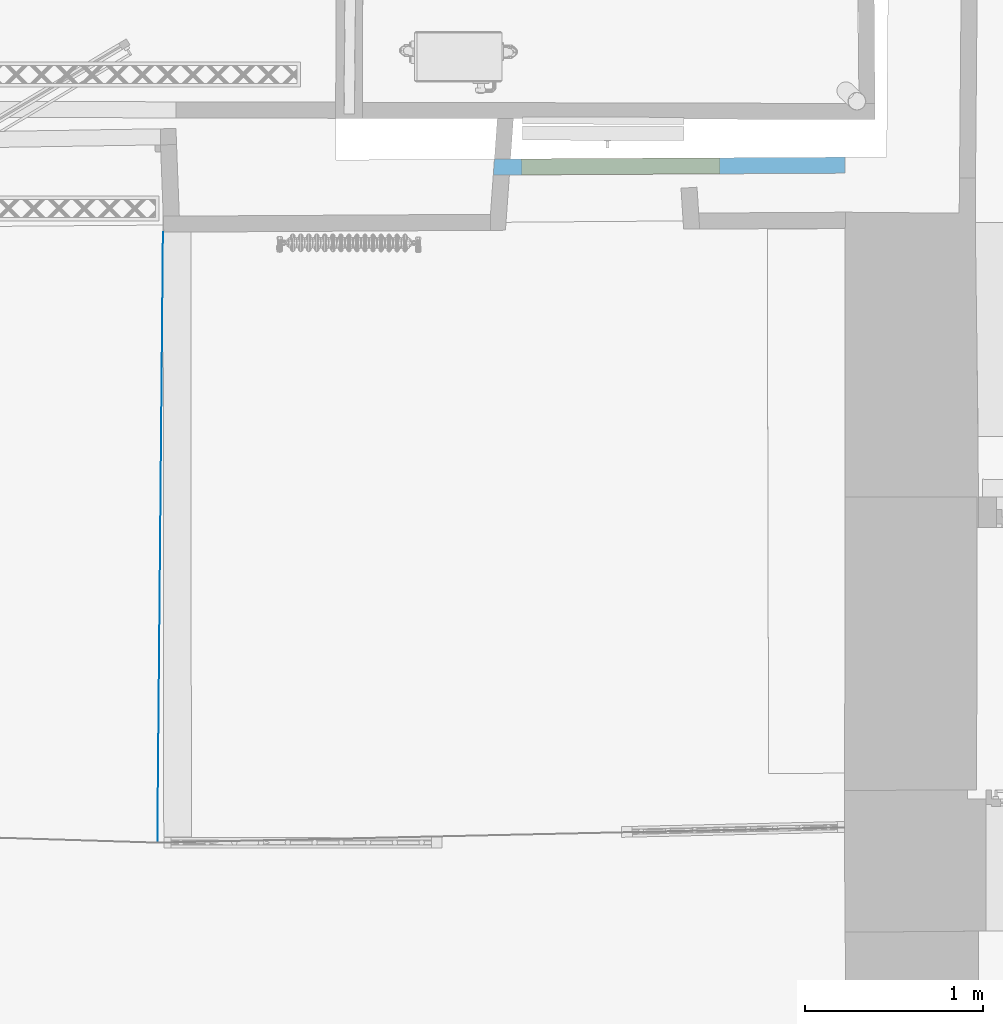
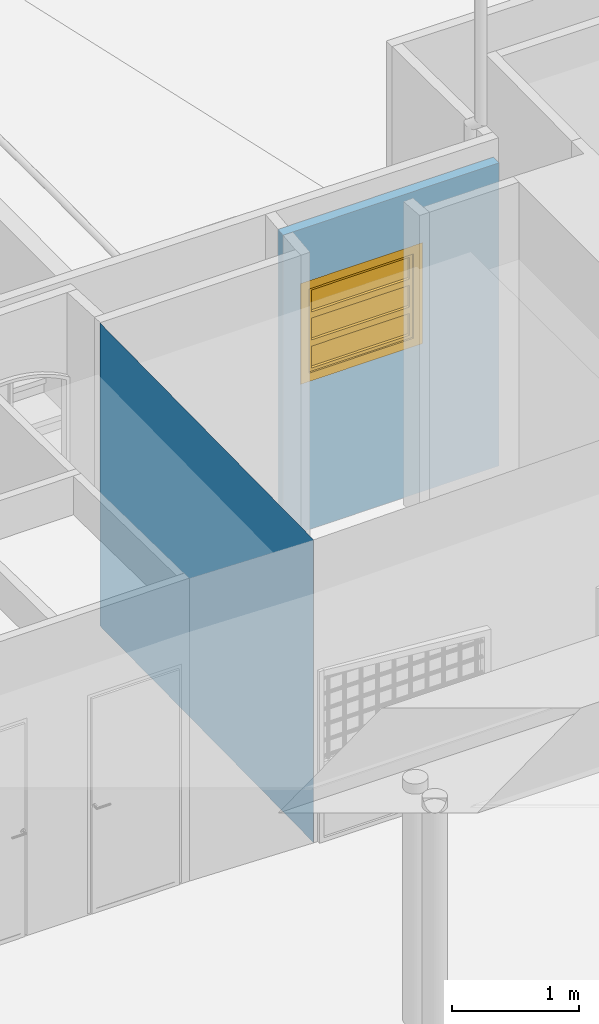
# One storey, part 107 of 133: 1 wall, 1 window, 1 opening, plus 1 element that does not belong to this part.
"""IFC2X3 building model written with IfcOpenShell, lengths in centimetres."""

from ifc_helpers import new_model, entity, si_unit, converted_unit, direction, frame, origin, origin_with_axes, place, context, subcontext, project, spatial, polyline, outline, extrude, faceted_brep, shape, source, transform, mapped, material, material_list, layer, layer_set, layer_usage, type_object, element, fill, save


model = new_model("IFC2X3")

# Units and contexts
model_context = context("Model", 3, precision=0.0001, world=origin(), true_north=direction((0.225632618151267, 0.974212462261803, 0.0)))
body_context = subcontext(model_context, "Body", "Model", "MODEL_VIEW")
footprint_context = subcontext(model_context, "FootPrint", "Model", "MODEL_VIEW")
profile_context = subcontext(model_context, "Profile", "Model", "MODEL_VIEW")
ifc_project = project(units=[si_unit("LENGTHUNIT", "METRE", prefix="CENTI"), si_unit("AREAUNIT", "SQUARE_METRE", prefix="CENTI"), si_unit("VOLUMEUNIT", "CUBIC_METRE", prefix="CENTI"), converted_unit("PLANEANGLEUNIT", "DEGREE", entity("IfcRatioMeasure", 0.0174532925), si_unit("PLANEANGLEUNIT", "RADIAN"), dimensions=[0, 0, 0, 0, 0, 0, 0])], contexts=[model_context])

# Site, building, storey
site_placement = place(None, origin_with_axes())
site = spatial("IfcSite", under=ifc_project, at=site_placement, Name="Default Site", CompositionType="ELEMENT")
building_placement = place(site_placement, origin_with_axes())
building = spatial("IfcBuilding", under=site, at=building_placement, Name="Default Building", CompositionType="ELEMENT")
storey_placement = place(building_placement, frame((0.0, 0.0, -291.400371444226), z_axis=(0.0, 0.0, 1.0), x_axis=(1.0, 0.0, 0.0)))
storey = spatial("IfcBuildingStorey", under=building, at=storey_placement, Name="Rez-de-Jardin", CompositionType="ELEMENT", Elevation=-291.400371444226)

# Wall
ifc_material_1 = material(Name="<aucun>")
ifc_layer_1 = layer(ifc_material_1, 0.0101999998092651)
ifc_layer_set_1 = layer_set([ifc_layer_1], Name="default")
ifc_layer_usage_1 = layer_usage(ifc_layer_set_1, "AXIS2", "POSITIVE", -0.0051)
wall_type_1 = type_object("IfcWallType", Name="default 0.101999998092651", PredefinedType="NOTDEFINED", material=ifc_layer_set_1)
wall_1_placement = place(storey_placement, frame((-154.877763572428, 203.499577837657, 0.0), z_axis=(0.0, 0.0, 1.0), x_axis=(0.00918020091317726, 0.999957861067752, 0.0)))
element("IfcWall", 1, at=wall_1_placement, inside=storey, type_object=wall_type_1, material=ifc_layer_usage_1, Name="Enveloppe fantôme 77961", context=body_context, shape_type="Brep", body=[
    faceted_brep([(342.371992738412, 1.76864389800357e-06, 1.03831294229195e-05), (1.6428183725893e-06, 1.87771887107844e-06, 1.03831294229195e-05), (1.6428183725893e-06, 1.87771887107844e-06, 82.7960833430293), (342.301227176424, 1.76866644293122e-06, 82.7960833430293), (342.371992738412, 1.76864389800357e-06, 82.7960833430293), (1.64281837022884e-06, -5.53145678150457e-06, 1.03831294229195e-05), (342.371992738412, -5.64053175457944e-06, 1.03831294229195e-05), (342.371992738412, -5.64053175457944e-06, 82.7960833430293), (342.301227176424, -5.64050920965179e-06, 82.7960833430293), (1.64281837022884e-06, -5.53145678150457e-06, 82.7960833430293), (342.301227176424, -4.14351843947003e-06, 82.7960833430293), (1.64281837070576e-06, -4.03446601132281e-06, 82.7960833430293), (1.64281837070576e-06, -4.03446601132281e-06, 291.413221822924), (342.301227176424, -4.14351843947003e-06, 291.413221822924), (342.301227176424, -4.14351843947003e-06, 105.000005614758), (342.301227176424, -5.64050920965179e-06, 105.000005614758), (342.301227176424, -5.64050920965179e-06, 291.413221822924), (1.64281837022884e-06, -5.53145678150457e-06, 291.413221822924), (342.301227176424, 1.76866644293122e-06, 105.000005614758), (342.371992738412, 1.76864389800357e-06, 105.000005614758), (342.371992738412, -4.14354098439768e-06, 82.7960833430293), (342.371992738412, -4.14354098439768e-06, 105.000005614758)], [[[0, 1, 2, 3, 4]], [[5, 6, 7, 8, 9]], [[10, 11, 12, 13, 14]], [[9, 8, 15, 16, 17]], [[4, 3, 18, 19]], [[10, 20, 21, 14]]]),
])

# Wall, opening, window
ifc_layer_2 = layer(ifc_material_1, 9.0)
ifc_layer_set_2 = layer_set([ifc_layer_2], Name="default")
ifc_layer_usage_2 = layer_usage(ifc_layer_set_2, "AXIS2", "POSITIVE", -4.5)
wall_type_2 = type_object("IfcWallType", Name="default 90", PredefinedType="NOTDEFINED", material=ifc_layer_set_2)
wall_2_placement = place(storey_placement, frame((38.1848745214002, 582.330023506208, -1.94511073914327e-11), z_axis=(0.0, 0.0, 1.0), x_axis=(0.999985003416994, 0.00547658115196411, 0.0)))
wall_2 = element("IfcWallStandardCase", 2, at=wall_2_placement, inside=storey, type_object=wall_type_2, material=ifc_layer_usage_2, Name="Enveloppe 55077", context=body_context, shape_type="SweptSolid", body=[
    extrude(outline(polyline([(-4.85909695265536, -4.50000000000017), (192.283167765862, -4.50000000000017), (192.283167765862, 4.4999999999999), (-4.16744102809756, 4.50000000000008), (-4.85909695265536, -4.50000000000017)])), frame((0.0, 0.0, 1.33226762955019e-13), z_axis=(0.0, 0.0, 1.0), x_axis=(1.0, 0.0, 0.0)), (0.0, 0.0, 1.0), 291.413221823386),
])
opening_placement = place(wall_2_placement, frame((10.8625685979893, 1.13686837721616e-13, 142.337174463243), z_axis=(0.0, 0.0, 1.0), x_axis=(-1.0, 3.82506526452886e-16, 0.0)))
cartesian_point_1 = entity("IfcCartesianPoint", [1.11022302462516e-14, 0.0, 97.0])
cartesian_point_2 = entity("IfcCartesianPoint", [-111.462126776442, -4.49999999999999])
opening = element("IfcOpeningElement", 3, at=opening_placement, cuts=wall_2, Name="4294966477_11", ObjectType="Opening", shapes=[
    shape(body_context, "Body", "SweptSolid", [extrude(outline(polyline([(-1.11022302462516e-14, 97.0), (-1.11022302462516e-14, 2.22044604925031e-14), (111.462126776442, 2.22044604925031e-14), (111.462126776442, 97.0), (-1.11022302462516e-14, 97.0)])), frame((0.0, -14.5, 0.0), z_axis=(0.0, 1.0, 0.0), x_axis=(-1.0, 0.0, 0.0)), (0.0, 0.0, 1.0), 29.0)]),
    shape(profile_context, "Profile", "GeometricCurveSet", [entity("IfcGeometricCurveSet", [entity("IfcPolyline", [cartesian_point_1, entity("IfcCartesianPoint", [1.11022302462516e-14, 0.0, 2.22044604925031e-14]), entity("IfcCartesianPoint", [-111.462126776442, 8.88178419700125e-14, 2.22044604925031e-14]), entity("IfcCartesianPoint", [-111.462126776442, 8.88178419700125e-14, 97.0]), cartesian_point_1])])]),
    shape(footprint_context, "FootPrint", "GeometricCurveSet", [entity("IfcGeometricCurveSet", [entity("IfcPolyline", [cartesian_point_2, entity("IfcCartesianPoint", [1.11022302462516e-14, -4.49999999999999]), entity("IfcCartesianPoint", [0.0, 4.49999999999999]), entity("IfcCartesianPoint", [-111.462126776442, 4.50000000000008]), cartesian_point_2])])]),
])
ifc_material_2 = material(Name="Transparent")
ifc_material_3 = material(Name="Blanc trafic")
ifc_material_list = material_list([ifc_material_2, ifc_material_3])
window_style = type_object("IfcWindowStyle", Name="Fn 1 montant fixe 2 vitres ép 90", ConstructionType="NOTDEFINED", OperationType="TRIPLE_PANEL_HORIZONTAL", ParameterTakesPrecedence=True, Sizeable=False, material=ifc_material_list)
shared_shape = source(origin_with_axes(), body_context, "Body", "Brep", [
    faceted_brep([(-47.7310627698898, 88.9999985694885, -4.50000017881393), (-47.7310627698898, 88.9999985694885, 4.50000017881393), (-47.7310627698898, 7.99999982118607, 4.50000017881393), (-47.7310627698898, 7.99999982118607, -4.50000017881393), (-55.731064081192, 97.0000028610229, 4.50000017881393), (-55.731064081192, 0.0, 4.50000017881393), (-55.731064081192, 97.0000028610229, -4.50000017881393), (-55.731064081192, 0.0, -4.50000017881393), (47.7310627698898, 7.99999982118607, 4.50000017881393), (47.7310627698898, 7.99999982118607, -4.50000017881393), (55.731064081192, 0.0, 4.50000017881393), (55.731064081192, 0.0, -4.50000017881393), (47.7310627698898, 88.9999985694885, 4.50000017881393), (47.7310627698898, 88.9999985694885, -4.50000017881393), (55.731064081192, 97.0000028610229, 4.50000017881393), (55.731064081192, 97.0000028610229, -4.50000017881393)], [[[0, 1, 2, 3]], [[1, 4, 5, 2]], [[4, 6, 7, 5]], [[6, 0, 3, 7]], [[3, 2, 8, 9]], [[2, 5, 10, 8]], [[5, 7, 11, 10]], [[7, 3, 9, 11]], [[9, 8, 12, 13]], [[8, 10, 14, 12]], [[10, 11, 15, 14]], [[11, 9, 13, 15]], [[13, 12, 1, 0]], [[12, 14, 4, 1]], [[14, 15, 6, 4]], [[15, 13, 0, 6]]]),
    faceted_brep([(-44.7310626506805, 86.0000014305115, -2.99999993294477), (-44.7310626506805, 86.0000014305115, 2.99999993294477), (-44.7310626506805, 64.9999976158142, 2.99999993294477), (-44.7310626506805, 64.9999976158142, -2.99999993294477), (-47.7310627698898, 88.9999985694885, 2.99999993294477), (-47.7310627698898, 62.0000004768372, 2.99999993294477), (-47.7310627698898, 88.9999985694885, -2.99999993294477), (-47.7310627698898, 62.0000004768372, -2.99999993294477), (44.7310626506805, 64.9999976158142, 2.99999993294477), (44.7310626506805, 64.9999976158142, -2.99999993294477), (47.7310627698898, 62.0000004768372, 2.99999993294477), (47.7310627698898, 62.0000004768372, -2.99999993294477), (44.7310626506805, 86.0000014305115, 2.99999993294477), (44.7310626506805, 86.0000014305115, -2.99999993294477), (47.7310627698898, 88.9999985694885, 2.99999993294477), (47.7310627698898, 88.9999985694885, -2.99999993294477)], [[[0, 1, 2, 3]], [[1, 4, 5, 2]], [[4, 6, 7, 5]], [[6, 0, 3, 7]], [[3, 2, 8, 9]], [[2, 5, 10, 8]], [[5, 7, 11, 10]], [[7, 3, 9, 11]], [[9, 8, 12, 13]], [[8, 10, 14, 12]], [[10, 11, 15, 14]], [[11, 9, 13, 15]], [[13, 12, 1, 0]], [[12, 14, 4, 1]], [[14, 15, 6, 4]], [[15, 13, 0, 6]]]),
    faceted_brep([(44.7310626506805, 86.0000014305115, -0.499999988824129), (44.7310626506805, 64.9999976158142, -0.499999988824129), (-44.7310626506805, 64.9999976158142, -0.499999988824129), (-44.7310626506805, 86.0000014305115, -0.499999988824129), (-44.7310626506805, 86.0000014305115, 0.499999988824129), (-44.7310626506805, 64.9999976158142, 0.499999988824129), (44.7310626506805, 64.9999976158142, 0.499999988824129), (44.7310626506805, 86.0000014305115, 0.499999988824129)], [[[0, 1, 2, 3]], [[4, 5, 6, 7]], [[3, 2, 5, 4]], [[2, 1, 6, 5]], [[1, 0, 7, 6]], [[0, 3, 4, 7]]]),
    faceted_brep([(-44.7310626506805, 58.9999973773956, -2.99999993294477), (-44.7310626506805, 58.9999973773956, 2.99999993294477), (-44.7310626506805, 37.9999995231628, 2.99999993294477), (-44.7310626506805, 37.9999995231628, -2.99999993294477), (-47.7310627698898, 62.0000004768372, 2.99999993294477), (-47.7310627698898, 34.9999994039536, 2.99999993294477), (-47.7310627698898, 62.0000004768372, -2.99999993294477), (-47.7310627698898, 34.9999994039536, -2.99999993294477), (44.7310626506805, 37.9999995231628, 2.99999993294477), (44.7310626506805, 37.9999995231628, -2.99999993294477), (47.7310627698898, 34.9999994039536, 2.99999993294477), (47.7310627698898, 34.9999994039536, -2.99999993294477), (44.7310626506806, 58.9999973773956, 2.99999993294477), (44.7310626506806, 58.9999973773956, -2.99999993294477), (47.7310627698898, 62.0000004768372, 2.99999993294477), (44.7310626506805, 58.9999973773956, 2.99999993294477), (47.7310627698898, 62.0000004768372, -2.99999993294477), (44.7310626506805, 58.9999973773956, -2.99999993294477)], [[[0, 1, 2, 3]], [[1, 4, 5, 2]], [[4, 6, 7, 5]], [[6, 0, 3, 7]], [[3, 2, 8, 9]], [[2, 5, 10, 8]], [[5, 7, 11, 10]], [[7, 3, 9, 11]], [[9, 8, 12, 13]], [[8, 10, 14, 15]], [[10, 11, 16, 14]], [[11, 9, 17, 16]], [[17, 15, 1, 0]], [[15, 14, 4, 1]], [[14, 16, 6, 4]], [[16, 17, 0, 6]]]),
    faceted_brep([(44.7310626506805, 58.9999973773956, -0.499999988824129), (44.7310626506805, 37.9999995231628, -0.499999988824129), (-44.7310626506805, 37.9999995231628, -0.499999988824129), (-44.7310626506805, 58.9999973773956, -0.499999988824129), (-44.7310626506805, 58.9999973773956, 0.499999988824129), (-44.7310626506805, 37.9999995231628, 0.499999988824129), (44.7310626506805, 37.9999995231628, 0.499999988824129), (44.7310626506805, 58.9999973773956, 0.499999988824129)], [[[0, 1, 2, 3]], [[4, 5, 6, 7]], [[3, 2, 5, 4]], [[2, 1, 6, 5]], [[1, 0, 7, 6]], [[0, 3, 4, 7]]]),
    faceted_brep([(-44.7310626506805, 31.9999992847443, -2.99999993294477), (-44.7310626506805, 31.9999992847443, 2.99999993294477), (-44.7310626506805, 10.9999999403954, 2.99999993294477), (-44.7310626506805, 10.9999999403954, -2.99999993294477), (-47.7310627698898, 34.9999994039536, 2.99999993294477), (-47.7310627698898, 7.99999982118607, 2.99999993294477), (-47.7310627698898, 34.9999994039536, -2.99999993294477), (-47.7310627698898, 7.99999982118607, -2.99999993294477), (44.7310626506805, 10.9999999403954, 2.99999993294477), (44.7310626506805, 10.9999999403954, -2.99999993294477), (47.7310627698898, 7.99999982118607, 2.99999993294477), (47.7310627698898, 7.99999982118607, -2.99999993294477), (44.7310626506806, 31.9999992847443, 2.99999993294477), (44.7310626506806, 31.9999992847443, -2.99999993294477), (47.7310627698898, 34.9999994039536, 2.99999993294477), (44.7310626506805, 31.9999992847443, 2.99999993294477), (47.7310627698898, 34.9999994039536, -2.99999993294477), (44.7310626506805, 31.9999992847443, -2.99999993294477)], [[[0, 1, 2, 3]], [[1, 4, 5, 2]], [[4, 6, 7, 5]], [[6, 0, 3, 7]], [[3, 2, 8, 9]], [[2, 5, 10, 8]], [[5, 7, 11, 10]], [[7, 3, 9, 11]], [[9, 8, 12, 13]], [[8, 10, 14, 15]], [[10, 11, 16, 14]], [[11, 9, 17, 16]], [[17, 15, 1, 0]], [[15, 14, 4, 1]], [[14, 16, 6, 4]], [[16, 17, 0, 6]]]),
    faceted_brep([(44.7310626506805, 31.9999992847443, -0.499999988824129), (44.7310626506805, 10.9999999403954, -0.499999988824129), (-44.7310626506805, 10.9999999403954, -0.499999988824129), (-44.7310626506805, 31.9999992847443, -0.499999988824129), (-44.7310626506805, 31.9999992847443, 0.499999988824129), (-44.7310626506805, 10.9999999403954, 0.499999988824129), (44.7310626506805, 10.9999999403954, 0.499999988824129), (44.7310626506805, 31.9999992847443, 0.499999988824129)], [[[0, 1, 2, 3]], [[4, 5, 6, 7]], [[3, 2, 5, 4]], [[2, 1, 6, 5]], [[1, 0, 7, 6]], [[0, 3, 4, 7]]]),
])
window_placement = place(opening_placement, frame((-111.462126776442, -4.50000000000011, 0.0), z_axis=(0.0, 0.0, 1.0), x_axis=(1.0, 0.0, 0.0)))
window = element("IfcWindow", 4, at=window_placement, inside=storey, type_object=window_style, material=ifc_material_list, Name="Fenêtre 76237", OverallHeight=97.0, OverallWidth=111.462126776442, context=body_context, shape_type="MappedRepresentation", body=[
    mapped(shared_shape, transform((55.731063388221, 4.4999999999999, -2.22044604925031e-14), x_axis=(-1.0, 0.0, 0.0), y_axis=(0.0, 0.0, 1.0), z_axis=(0.0, 1.0, 0.0), scale=1.0, scale2=1.0, scale3=1.0, uniform=False)),
])
fill(opening, window)

save(model, "model.ifc")
